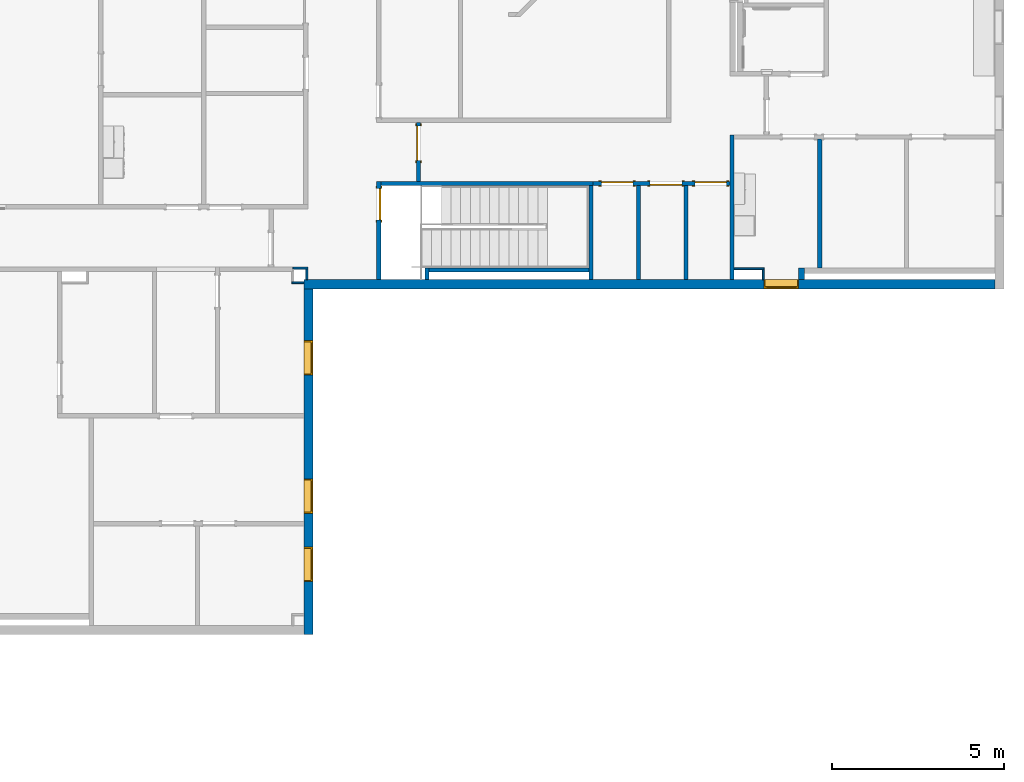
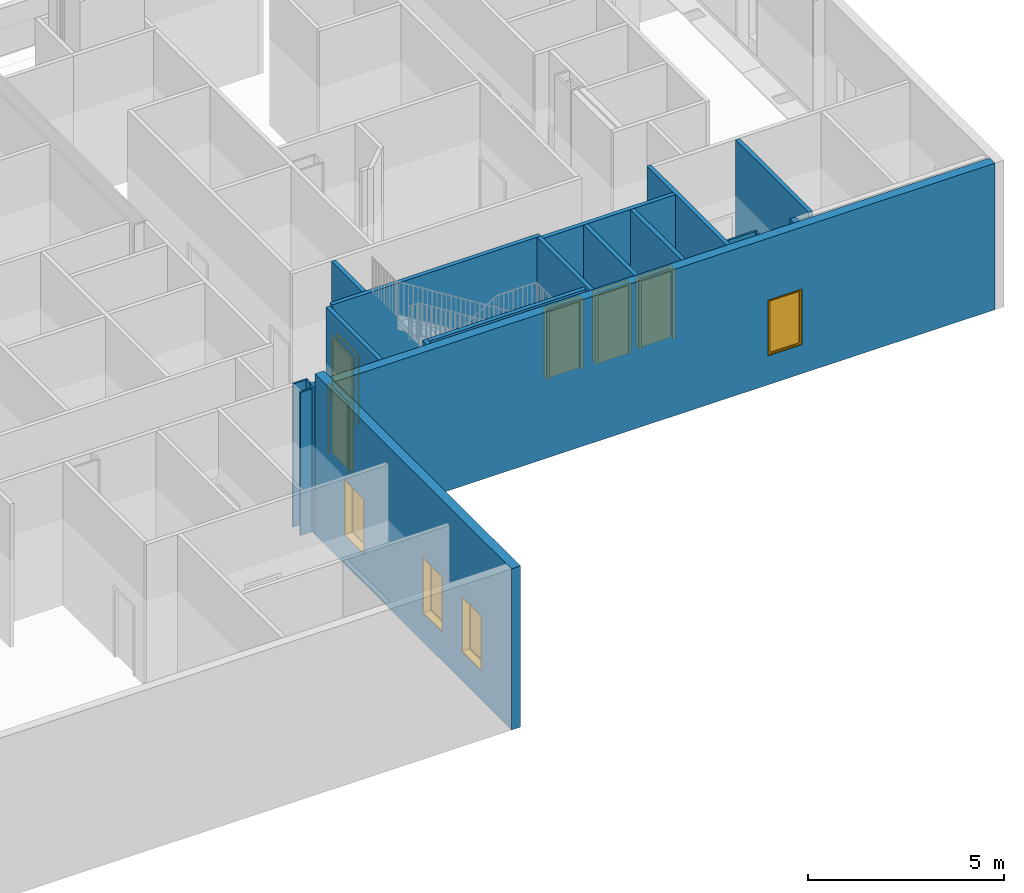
# One storey, part 23 of 87: 19 walls, 5 doors, 4 windows, 9 openings.
"""IFC2X3 building model written with IfcOpenShell, lengths in metres."""

from ifc_helpers import new_model, entity, si_unit, converted_unit, frame, frame_2d, origin, origin_2d_with_axis, place, context, project, spatial, polyline, rectangle, outline, extrude, source, transform, mapped, material, layer, layer_set, layer_usage, type_object, type_shapes, element, fill, save


model = new_model("IFC2X3")

# Units and contexts
model_context = context("Model", 3, precision=1e-09, world=origin())
plan_context = context("Plan", 3, precision=1e-09, world=origin())
ifc_project = project(units=[si_unit("LENGTHUNIT", "METRE"), si_unit("AREAUNIT", "SQUARE_METRE"), si_unit("VOLUMEUNIT", "CUBIC_METRE"), converted_unit("PLANEANGLEUNIT", "DEGREE", entity("IfcRatioMeasure", 0.01745329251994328), si_unit("PLANEANGLEUNIT", "RADIAN"), dimensions=[0, 0, 0, 0, 0, 0, 0]), si_unit("TIMEUNIT", "SECOND")], contexts=[model_context, plan_context])

# Site, building, storey
site_placement = place(None, origin())
site = spatial("IfcSite", under=ifc_project, at=site_placement, Name="Default", CompositionType="ELEMENT")
building_placement = place(site_placement, origin())
building = spatial("IfcBuilding", under=site, at=building_placement, CompositionType="ELEMENT")
storey_placement = place(building_placement, origin())
storey = spatial("IfcBuildingStorey", under=building, at=storey_placement, Name="First Floor", CompositionType="ELEMENT", Elevation=-3.531500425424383e-13)

# Wall, opening, window
ifc_material_1 = material(Name="Insulation - Insulated Panel")
ifc_layer_1 = layer(ifc_material_1, 0.042)
ifc_material_2 = material(Name="Metal - Firring")
ifc_layer_2 = layer(ifc_material_2, 0.038)
ifc_material_3 = material(Name="Wood - Sheathing - plywood")
ifc_layer_3 = layer(ifc_material_3, 0.019)
ifc_material_4 = material(Name="Metal - Stud Layer")
ifc_layer_4 = layer(ifc_material_4, 0.152)
ifc_material_5 = material(Name="Plasterboard")
ifc_layer_5 = layer(ifc_material_5, 0.016)
ifc_layer_set_1 = layer_set([ifc_layer_1, ifc_layer_2, ifc_layer_3, ifc_layer_4, ifc_layer_5], Name="Basic Wall:Exterior - Insul Panel on Mtl. Stud")
ifc_layer_usage_1 = layer_usage(ifc_layer_set_1, "AXIS2", "NEGATIVE", 0.1335)
wall_1_placement = place(storey_placement, frame((0.112999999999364, 9.793499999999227, 0.0), z_axis=(0.0, 0.0, 1.0), x_axis=(-1.0, 0.0, 0.0)))
wall_1 = element("IfcWallStandardCase", 1, at=wall_1_placement, inside=storey, material=ifc_layer_usage_1, Name="Basic Wall:Exterior - Insul Panel on Mtl. Stud", ObjectType="Basic Wall:Exterior - Insul Panel on Mtl. Stud", context=model_context, shape_type="SweptSolid", body=[
    extrude(rectangle(XDim=20.06000000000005, YDim=0.267, at=frame_2d((10.03000000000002, 0.0), x_axis=(-1.0, 0.0))), origin(), (0.0, 0.0, 1.0), 4.57000000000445),
])
opening_1_placement = place(wall_1_placement, frame((5.696303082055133, -0.1335000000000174, 0.9049999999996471)))
opening_1 = element("IfcOpeningElement", 2, at=opening_1_placement, cuts=wall_1, Name="M_Fixed:1735 x 1000mm:1735 x 1000mm:1", ObjectType="Opening", context=model_context, shape_type="SweptSolid", body=[
    extrude(rectangle(XDim=1.734999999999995, YDim=0.9999999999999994, at=frame_2d((0.8674999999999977, 0.5000000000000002), x_axis=(1.0, 0.0))), frame((0.0, 0.0, 0.0), z_axis=(0.0, 1.0, 0.0), x_axis=(0.0, 0.0, 1.0)), (0.0, 0.0, 1.0), 0.267),
])
window_style = type_object("IfcWindowStyle", Name="1735 x 1000mm", ConstructionType="NOTDEFINED", OperationType="NOTDEFINED", ParameterTakesPrecedence=False, Sizeable=False)
shared_shape_1 = source(origin(), model_context, "Body", "SweptSolid", [
    extrude(rectangle(XDim=0.012, YDim=0.873999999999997, at=origin_2d_with_axis()), frame((0.5000000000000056, 0.2259999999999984, 0.06299999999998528), z_axis=(0.0, 0.0, 1.0), x_axis=(0.0, -1.0, 0.0)), (0.0, 0.0, 1.0), 1.609000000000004),
    extrude(outline(polyline([(-0.4809999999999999, -0.8485000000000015), (0.4809999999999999, -0.8485000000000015), (0.4809999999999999, 0.8485000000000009), (-0.4809999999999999, 0.8485000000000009), (-0.4809999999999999, -0.8485000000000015)]), holes=[polyline([(-0.4369999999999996, -0.8045000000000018), (-0.4369999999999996, 0.8045000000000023), (0.4369999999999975, 0.8045000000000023), (0.4369999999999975, -0.8045000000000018), (-0.4369999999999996, -0.8045000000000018)])]), frame((0.5000000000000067, 0.203999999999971, 0.8674999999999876), z_axis=(0.0, 1.0, 0.0), x_axis=(1.0, 0.0, 0.0)), (0.0, 0.0, 1.0), 0.04400000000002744),
    extrude(outline(polyline([(-0.4999999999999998, -0.8674999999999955), (0.4999999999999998, -0.8674999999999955), (0.4999999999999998, 0.8674999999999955), (-0.4999999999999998, 0.8674999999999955), (-0.4999999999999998, -0.8674999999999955)]), holes=[polyline([(-0.4810000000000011, -0.8484999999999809), (-0.4810000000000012, 0.8485000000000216), (0.4809999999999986, 0.8485000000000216), (0.4809999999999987, -0.8484999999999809), (-0.4810000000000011, -0.8484999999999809)])]), frame((0.500000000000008, 0.203999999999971, 0.8675000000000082), z_axis=(0.0, 1.0, 0.0), x_axis=(1.0, 0.0, 0.0)), (0.0, 0.0, 1.0), 0.06300000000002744),
    extrude(outline(polyline([(-0.5000000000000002, -0.867499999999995), (0.5000000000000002, -0.867499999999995), (0.5000000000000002, 0.867499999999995), (-0.5000000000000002, 0.867499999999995), (-0.5000000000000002, -0.867499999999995)]), holes=[polyline([(-0.4679999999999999, -0.8354999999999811), (-0.4679999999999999, 0.8355000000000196), (0.4680000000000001, 0.8355000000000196), (0.4680000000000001, -0.8354999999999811), (-0.4679999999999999, -0.8354999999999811)])]), frame((0.5000000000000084, 0.0, 0.8675000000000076), z_axis=(0.0, 1.0, 0.0), x_axis=(1.0, 0.0, 0.0)), (0.0, 0.0, 1.0), 0.2039999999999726),
])
type_shapes(window_style, [shared_shape_1])
window_1_placement = place(opening_1_placement, origin())
window_1 = element("IfcWindow", 3, at=window_1_placement, inside=storey, type_object=window_style, Name="M_Fixed:1735 x 1000mm:1735 x 1000mm", ObjectType="1735 x 1000mm", OverallHeight=1.734999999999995, OverallWidth=1.0, context=model_context, shape_type="MappedRepresentation", body=[
    mapped(shared_shape_1, transform((0.0, 0.0, 0.0), scale=1.0)),
])
fill(opening_1, window_1)

# Wall, openings, windows
ifc_layer_usage_2 = layer_usage(ifc_layer_set_1, "AXIS2", "NEGATIVE", 0.1335)
wall_2_placement = place(storey_placement, frame((-19.81350000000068, 9.659999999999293, 0.0), z_axis=(0.0, 0.0, 1.0), x_axis=(0.0, -1.0, 0.0)))
wall_2 = element("IfcWallStandardCase", 4, at=wall_2_placement, inside=storey, material=ifc_layer_usage_2, Name="Basic Wall:Exterior - Insul Panel on Mtl. Stud", ObjectType="Basic Wall:Exterior - Insul Panel on Mtl. Stud", context=model_context, shape_type="SweptSolid", body=[
    extrude(rectangle(XDim=10.04000000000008, YDim=0.2669999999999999, at=frame_2d((5.02000000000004, 0.0), x_axis=(-1.0, 0.0))), origin(), (0.0, 0.0, 1.0), 5.02700000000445),
])
opening_2_placement = place(wall_2_placement, frame((1.506000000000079, -0.1335000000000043, 0.9049999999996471)))
opening_2 = element("IfcOpeningElement", 5, at=opening_2_placement, cuts=wall_2, Name="M_Fixed:1735 x 1000mm:1735 x 1000mm:1", ObjectType="Opening", context=model_context, shape_type="SweptSolid", body=[
    extrude(rectangle(XDim=1.734999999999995, YDim=0.9999999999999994, at=frame_2d((0.8674999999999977, 0.5000000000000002), x_axis=(1.0, 0.0))), frame((0.0, 0.0, 0.0), z_axis=(0.0, 1.0, 0.0), x_axis=(0.0, 0.0, 1.0)), (0.0, 0.0, 1.0), 0.267),
])
opening_3_placement = place(wall_2_placement, frame((5.516000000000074, -0.1335000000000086, 0.9049999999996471)))
opening_3 = element("IfcOpeningElement", 6, at=opening_3_placement, cuts=wall_2, Name="M_Fixed:1735 x 1000mm:1735 x 1000mm:1", ObjectType="Opening", context=model_context, shape_type="SweptSolid", body=[
    extrude(rectangle(XDim=1.734999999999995, YDim=0.9999999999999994, at=frame_2d((0.8674999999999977, 0.5000000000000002), x_axis=(1.0, 0.0))), frame((0.0, 0.0, 0.0), z_axis=(0.0, 1.0, 0.0), x_axis=(0.0, 0.0, 1.0)), (0.0, 0.0, 1.0), 0.267),
])
opening_4_placement = place(wall_2_placement, frame((7.500000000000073, -0.133500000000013, 0.9049999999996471)))
opening_4 = element("IfcOpeningElement", 7, at=opening_4_placement, cuts=wall_2, Name="M_Fixed:1735 x 1000mm:1735 x 1000mm:1", ObjectType="Opening", context=model_context, shape_type="SweptSolid", body=[
    extrude(rectangle(XDim=1.734999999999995, YDim=0.9999999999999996, at=frame_2d((0.8674999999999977, 0.4999999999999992), x_axis=(1.0, 0.0))), frame((0.0, 0.0, 0.0), z_axis=(0.0, 1.0, 0.0), x_axis=(0.0, 0.0, 1.0)), (0.0, 0.0, 1.0), 0.267),
])
window_2_placement = place(opening_2_placement, origin())
window_2 = element("IfcWindow", 8, at=window_2_placement, inside=storey, type_object=window_style, Name="M_Fixed:1735 x 1000mm:1735 x 1000mm", ObjectType="1735 x 1000mm", OverallHeight=1.734999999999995, OverallWidth=1.0, context=model_context, shape_type="MappedRepresentation", body=[
    mapped(shared_shape_1, transform((0.0, 0.0, 0.0), scale=1.0)),
])
fill(opening_2, window_2)
window_3_placement = place(opening_3_placement, origin())
window_3 = element("IfcWindow", 9, at=window_3_placement, inside=storey, type_object=window_style, Name="M_Fixed:1735 x 1000mm:1735 x 1000mm", ObjectType="1735 x 1000mm", OverallHeight=1.734999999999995, OverallWidth=0.9999999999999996, context=model_context, shape_type="MappedRepresentation", body=[
    mapped(shared_shape_1, transform((0.0, 0.0, 0.0), scale=1.0)),
])
fill(opening_3, window_3)
window_4_placement = place(opening_4_placement, origin())
window_4 = element("IfcWindow", 10, at=window_4_placement, inside=storey, type_object=window_style, Name="M_Fixed:1735 x 1000mm:1735 x 1000mm", ObjectType="1735 x 1000mm", OverallHeight=1.734999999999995, OverallWidth=0.9999999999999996, context=model_context, shape_type="MappedRepresentation", body=[
    mapped(shared_shape_1, transform((0.0, 0.0, 0.0), scale=1.0)),
])
fill(opening_4, window_4)

# Walls
ifc_layer_6 = layer(ifc_material_5, 0.016)
ifc_layer_7 = layer(ifc_material_4, 0.092)
ifc_layer_8 = layer(ifc_material_5, 0.016)
ifc_layer_set_2 = layer_set([ifc_layer_6, ifc_layer_7, ifc_layer_8], Name="Basic Wall:Interior - Partition (92mm Stud)")
ifc_layer_usage_3 = layer_usage(ifc_layer_set_2, "AXIS2", "NEGATIVE", 0.062)
wall_3_placement = place(storey_placement, frame((-7.517975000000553, 9.92699999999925, 0.0), z_axis=(0.0, 0.0, 1.0), x_axis=(0.0, 1.0, 0.0)))
element("IfcWallStandardCase", 11, at=wall_3_placement, inside=storey, material=ifc_layer_usage_3, Name="Basic Wall:Interior - Partition (92mm Stud)", ObjectType="Basic Wall:Interior - Partition (92mm Stud)", context=model_context, shape_type="SweptSolid", body=[
    extrude(rectangle(XDim=4.202999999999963, YDim=0.124, at=frame_2d((2.101499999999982, 0.0), x_axis=(-1.0, 0.0))), origin(), (0.0, 0.0, 1.0), 4.468000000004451),
])
ifc_layer_9 = layer(ifc_material_4, 0.152)
ifc_layer_10 = layer(ifc_material_5, 0.016)
ifc_layer_set_3 = layer_set([ifc_layer_9, ifc_layer_10], Name="Basic Wall:Interior - Furring (152 mm Stud)")
ifc_layer_usage_4 = layer_usage(ifc_layer_set_3, "AXIS2", "POSITIVE", -0.08399999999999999)
wall_4_placement = place(storey_placement, frame((-5.49930308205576, 9.926999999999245, 0.0), z_axis=(0.0, 0.0, 1.0), x_axis=(0.0, 1.0, 0.0)))
element("IfcWallStandardCase", 12, at=wall_4_placement, inside=storey, material=ifc_layer_usage_4, Name="Basic Wall:Interior - Furring (152 mm Stud)", ObjectType="Basic Wall:Interior - Furring (152 mm Stud)", context=model_context, shape_type="SweptSolid", body=[
    extrude(rectangle(XDim=0.3429999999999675, YDim=0.1680000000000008, at=frame_2d((0.1714999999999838, 0.0), x_axis=(-1.0, 0.0))), origin(), (0.0, 0.0, 1.0), 4.46800000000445),
])
ifc_layer_usage_5 = layer_usage(ifc_layer_set_2, "AXIS2", "NEGATIVE", 0.062)
wall_5_placement = place(storey_placement, frame((-4.967975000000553, 10.26999999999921, 0.0), z_axis=(0.0, 0.0, 1.0), x_axis=(0.0, 1.0, 0.0)))
element("IfcWallStandardCase", 13, at=wall_5_placement, inside=storey, material=ifc_layer_usage_5, Name="Basic Wall:Interior - Partition (92mm Stud)", ObjectType="Basic Wall:Interior - Partition (92mm Stud)", context=model_context, shape_type="SweptSolid", body=[
    extrude(rectangle(XDim=3.735999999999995, YDim=0.124, at=frame_2d((1.867999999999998, 0.0), x_axis=(-1.0, 0.0))), origin(), (0.0, 0.0, 1.0), 4.46800000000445),
])
ifc_layer_11 = layer(ifc_material_4, 0.038)
ifc_layer_12 = layer(ifc_material_5, 0.016)
ifc_layer_set_4 = layer_set([ifc_layer_11, ifc_layer_12], Name="Basic Wall:Interior - Furring (38 mm Stud)")
ifc_layer_usage_6 = layer_usage(ifc_layer_set_4, "AXIS2", "POSITIVE", -0.027)
wall_6_placement = place(storey_placement, frame((-7.455975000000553, 10.24299999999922, 0.0)))
element("IfcWallStandardCase", 14, at=wall_6_placement, inside=storey, material=ifc_layer_usage_6, Name="Basic Wall:Interior - Furring (38 mm Stud)", ObjectType="Basic Wall:Interior - Furring (38 mm Stud)", context=model_context, shape_type="SweptSolid", body=[
    extrude(rectangle(XDim=0.872671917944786, YDim=0.05400000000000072, at=frame_2d((0.436335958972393, 0.0), x_axis=(-1.0, 0.0))), origin(), (0.0, 0.0, 1.0), 4.46800000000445),
])
ifc_layer_usage_7 = layer_usage(ifc_layer_set_4, "AXIS2", "POSITIVE", -0.027)
wall_7_placement = place(storey_placement, frame((-6.610303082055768, 10.21599999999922, 0.0), z_axis=(0.0, 0.0, 1.0), x_axis=(0.0, -1.0, 0.0)))
element("IfcWallStandardCase", 15, at=wall_7_placement, inside=storey, material=ifc_layer_usage_7, Name="Basic Wall:Interior - Furring (38 mm Stud)", ObjectType="Basic Wall:Interior - Furring (38 mm Stud)", context=model_context, shape_type="SweptSolid", body=[
    extrude(rectangle(XDim=0.2889999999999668, YDim=0.05400000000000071, at=frame_2d((0.1444999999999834, 0.0), x_axis=(-1.0, 0.0))), origin(), (0.0, 0.0, 1.0), 4.46800000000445),
])

# Wall, opening, door
ifc_material_6 = material(Name="Type-X Plasterboard")
ifc_layer_13 = layer(ifc_material_6, 0.016)
ifc_layer_14 = layer(ifc_material_4, 0.092)
ifc_layer_15 = layer(ifc_material_6, 0.016)
ifc_layer_set_5 = layer_set([ifc_layer_13, ifc_layer_14, ifc_layer_15], Name="Basic Wall:Interior - Rated 1-HR (92mm Stud)")
ifc_layer_usage_8 = layer_usage(ifc_layer_set_5, "AXIS2", "NEGATIVE", 0.06200000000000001)
wall_8_placement = place(storey_placement, frame((-17.76800000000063, 9.926999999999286, 0.0), z_axis=(0.0, 0.0, 1.0), x_axis=(0.0, 1.0, 0.0)))
wall_8 = element("IfcWallStandardCase", 16, at=wall_8_placement, inside=storey, material=ifc_layer_usage_8, Name="Basic Wall:Interior - Rated 1-HR (92mm Stud)", ObjectType="Basic Wall:Interior - Rated 1-HR (92mm Stud)", context=model_context, shape_type="SweptSolid", body=[
    extrude(rectangle(XDim=2.852999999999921, YDim=0.1240000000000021, at=frame_2d((1.426499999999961, 0.0), x_axis=(-1.0, 0.0))), origin(), (0.0, 0.0, 1.0), 4.46800000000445),
])
opening_5_placement = place(wall_8_placement, frame((2.648999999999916, 0.06199999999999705, 0.0)))
opening_5 = element("IfcOpeningElement", 17, at=opening_5_placement, cuts=wall_8, Name="M_Single-Flush:0915 x 2134mm Rated:0915 x 2134mm Rated:1", ObjectType="Opening", context=model_context, shape_type="SweptSolid", body=[
    extrude(rectangle(XDim=0.9149999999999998, YDim=2.134, at=frame_2d((1.067, 0.4574999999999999), x_axis=(0.0, -1.0))), frame((0.0, 0.0, 0.0), z_axis=(0.0, -1.0, 0.0), x_axis=(0.0, 0.0, 1.0)), (0.0, 0.0, 1.0), 0.124),
])
door_style_1 = type_object("IfcDoorStyle", Name="0915 x 2134mm Rated", ConstructionType="NOTDEFINED", OperationType="SINGLE_SWING_LEFT", ParameterTakesPrecedence=False, Sizeable=False)
shared_shape_2 = source(origin(), model_context, "Body", "SweptSolid", [
    extrude(outline(polyline([(-0.5335, -1.123999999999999), (0.5334999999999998, -1.123999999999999), (0.5334999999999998, 1.086), (0.4574999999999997, 1.086), (0.4574999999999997, -1.048000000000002), (-0.4574999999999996, -1.048000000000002), (-0.4574999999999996, 1.086), (-0.5335, 1.086), (-0.5335, -1.123999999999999)])), frame((0.4575000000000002, 0.1489999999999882, 1.086), z_axis=(0.0, -1.0, 0.0), x_axis=(-1.0, 0.0, 0.0)), (0.0, 0.0, 1.0), 0.02499999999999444),
    extrude(outline(polyline([(-1.123999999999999, -0.5334999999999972), (1.085999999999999, -0.5334999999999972), (1.085999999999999, -0.4575000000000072), (-1.048, -0.4575000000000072), (-1.048, 0.4575000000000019), (1.085999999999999, 0.4575000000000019), (1.085999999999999, 0.5335000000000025), (-1.123999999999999, 0.5335000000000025), (-1.123999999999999, -0.5334999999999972)])), frame((0.4574999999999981, 0.0, 1.085999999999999), z_axis=(0.0, -1.0, 0.0), x_axis=(0.0, 0.0, -1.0)), (0.0, 0.0, 1.0), 0.02500000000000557),
    extrude(rectangle(XDim=0.9149999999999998, YDim=0.051, at=origin_2d_with_axis()), frame((0.4575000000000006, 0.09849999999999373, 0.0)), (0.0, 0.0, 1.0), 2.133999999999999),
])
type_shapes(door_style_1, [shared_shape_2])
door_1_placement = place(opening_5_placement, frame((0.0, 0.0, 0.0), z_axis=(0.0, 0.0, 1.0), x_axis=(-1.0, 0.0, 0.0)))
door_1 = element("IfcDoor", 18, at=door_1_placement, inside=storey, type_object=door_style_1, Name="M_Single-Flush:0915 x 2134mm Rated:0915 x 2134mm Rated", ObjectType="0915 x 2134mm Rated", OverallHeight=2.134, OverallWidth=0.9149999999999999, context=model_context, shape_type="MappedRepresentation", body=[
    mapped(shared_shape_2, transform((0.0, 0.0, 0.0), scale=1.0)),
])
fill(opening_5, door_1)

# Walls
ifc_layer_usage_9 = layer_usage(ifc_layer_set_5, "AXIS2", "NEGATIVE", 0.06200000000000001)
wall_9_placement = place(storey_placement, frame((-17.70600000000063, 12.71799999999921, 0.0)))
element("IfcWallStandardCase", 19, at=wall_9_placement, inside=storey, material=ifc_layer_usage_9, Name="Basic Wall:Interior - Rated 1-HR (92mm Stud)", ObjectType="Basic Wall:Interior - Rated 1-HR (92mm Stud)", context=model_context, shape_type="SweptSolid", body=[
    extrude(rectangle(XDim=6.156000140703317, YDim=0.1240000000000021, at=frame_2d((3.078000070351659, 0.0), x_axis=(-1.0, 0.0))), origin(), (0.0, 0.0, 1.0), 4.570000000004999),
])
ifc_layer_usage_10 = layer_usage(ifc_layer_set_2, "AXIS2", "NEGATIVE", 0.062)
wall_10_placement = place(storey_placement, frame((-8.852000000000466, 12.65599999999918, 0.0), z_axis=(0.0, 0.0, 1.0), x_axis=(0.0, -1.0, 0.0)))
element("IfcWallStandardCase", 20, at=wall_10_placement, inside=storey, material=ifc_layer_usage_10, Name="Basic Wall:Interior - Partition (92mm Stud)", ObjectType="Basic Wall:Interior - Partition (92mm Stud)", context=model_context, shape_type="SweptSolid", body=[
    extrude(rectangle(XDim=2.728999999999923, YDim=0.124, at=frame_2d((1.364499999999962, 0.0), x_axis=(-1.0, 0.0))), origin(), (0.0, 0.0, 1.0), 4.46800000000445),
])
ifc_layer_usage_11 = layer_usage(ifc_layer_set_2, "AXIS2", "NEGATIVE", 0.062)
wall_11_placement = place(storey_placement, frame((-10.23200000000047, 12.65599999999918, 0.0), z_axis=(0.0, 0.0, 1.0), x_axis=(0.0, -1.0, 0.0)))
element("IfcWallStandardCase", 21, at=wall_11_placement, inside=storey, material=ifc_layer_usage_11, Name="Basic Wall:Interior - Partition (92mm Stud)", ObjectType="Basic Wall:Interior - Partition (92mm Stud)", context=model_context, shape_type="SweptSolid", body=[
    extrude(rectangle(XDim=2.728999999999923, YDim=0.1240000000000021, at=frame_2d((1.364499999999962, 0.0), x_axis=(-1.0, 0.0))), origin(), (0.0, 0.0, 1.0), 4.46800000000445),
])
ifc_layer_usage_12 = layer_usage(ifc_layer_set_5, "AXIS2", "NEGATIVE", 0.06200000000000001)
wall_12_placement = place(storey_placement, frame((-11.61199985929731, 12.65599999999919, 0.0), z_axis=(0.0, 0.0, 1.0), x_axis=(0.0, -1.0, 0.0)))
element("IfcWallStandardCase", 22, at=wall_12_placement, inside=storey, material=ifc_layer_usage_12, Name="Basic Wall:Interior - Rated 1-HR (92mm Stud)", ObjectType="Basic Wall:Interior - Rated 1-HR (92mm Stud)", context=model_context, shape_type="SweptSolid", body=[
    extrude(rectangle(XDim=2.728999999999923, YDim=0.1240000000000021, at=frame_2d((1.364499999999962, 0.0), x_axis=(-1.0, 0.0))), origin(), (0.0, 0.0, 1.0), 4.570000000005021),
])
ifc_layer_usage_13 = layer_usage(ifc_layer_set_2, "AXIS2", "NEGATIVE", 0.062)
wall_13_placement = place(storey_placement, frame((-16.36800000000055, 9.92699999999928, 0.0), z_axis=(0.0, 0.0, 1.0), x_axis=(0.0, 1.0, 0.0)))
element("IfcWallStandardCase", 23, at=wall_13_placement, inside=storey, material=ifc_layer_usage_13, Name="Basic Wall:Interior - Partition (92mm Stud)", ObjectType="Basic Wall:Interior - Partition (92mm Stud)", context=model_context, shape_type="SweptSolid", body=[
    extrude(rectangle(XDim=0.3429998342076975, YDim=0.1240000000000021, at=frame_2d((0.1714999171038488, 0.0), x_axis=(-1.0, 0.0))), origin(), (0.0, 0.0, 1.0), 4.46800000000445),
])
ifc_layer_usage_14 = layer_usage(ifc_layer_set_2, "AXIS2", "NEGATIVE", 0.062)
wall_14_placement = place(storey_placement, frame((-16.30600000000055, 10.20799983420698, 0.0)))
element("IfcWallStandardCase", 24, at=wall_14_placement, inside=storey, material=ifc_layer_usage_14, Name="Basic Wall:Interior - Partition (92mm Stud)", ObjectType="Basic Wall:Interior - Partition (92mm Stud)", context=model_context, shape_type="SweptSolid", body=[
    extrude(rectangle(XDim=4.632000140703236, YDim=0.1240000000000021, at=frame_2d((2.316000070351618, 0.0), x_axis=(-1.0, 0.0))), origin(), (0.0, 0.0, 1.0), 4.46800000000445),
])

# Wall, opening, door
ifc_layer_usage_15 = layer_usage(ifc_layer_set_2, "AXIS2", "NEGATIVE", 0.062)
wall_15_placement = place(storey_placement, frame((-16.61800000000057, 12.7799999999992, 0.0), z_axis=(0.0, 0.0, 1.0), x_axis=(0.0, 1.0, 0.0)))
wall_15 = element("IfcWallStandardCase", 25, at=wall_15_placement, inside=storey, material=ifc_layer_usage_15, Name="Basic Wall:Interior - Partition (92mm Stud)", ObjectType="Basic Wall:Interior - Partition (92mm Stud)", context=model_context, shape_type="SweptSolid", body=[
    extrude(rectangle(XDim=1.709999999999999, YDim=0.1240000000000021, at=frame_2d((0.8549999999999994, 0.0), x_axis=(-1.0, 0.0))), origin(), (0.0, 0.0, 1.0), 4.46800000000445),
])
opening_6_placement = place(wall_15_placement, frame((0.6099999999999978, -0.06200000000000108, 0.0)))
opening_6 = element("IfcOpeningElement", 26, at=opening_6_placement, cuts=wall_15, Name="M_Single-Flush:1000 x 2134mm:1000 x 2134mm:1", ObjectType="Opening", context=model_context, shape_type="SweptSolid", body=[
    extrude(rectangle(XDim=0.9999999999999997, YDim=2.134, at=frame_2d((1.067, 0.5000000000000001), x_axis=(0.0, 1.0))), frame((0.0, 0.0, 0.0), z_axis=(0.0, 1.0, 0.0), x_axis=(0.0, 0.0, 1.0)), (0.0, 0.0, 1.0), 0.124),
])
door_style_2 = type_object("IfcDoorStyle", Name="1000 x 2134mm", ConstructionType="NOTDEFINED", OperationType="SINGLE_SWING_RIGHT", ParameterTakesPrecedence=False, Sizeable=False)
shared_shape_3 = source(origin(), model_context, "Body", "SweptSolid", [
    extrude(outline(polyline([(-0.576, -1.123999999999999), (0.5759999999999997, -1.123999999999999), (0.5759999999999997, 1.086), (0.4999999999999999, 1.086), (0.4999999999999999, -1.048000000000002), (-0.4999999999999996, -1.048000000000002), (-0.4999999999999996, 1.086), (-0.576, 1.086), (-0.576, -1.123999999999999)])), frame((0.5000000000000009, 0.1239999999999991, 1.086), z_axis=(0.0, 1.0, 0.0), x_axis=(1.0, 0.0, 0.0)), (0.0, 0.0, 1.0), 0.02499999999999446),
    extrude(outline(polyline([(-1.124, -0.575999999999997), (1.086, -0.575999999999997), (1.086, -0.5000000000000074), (-1.048, -0.5000000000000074), (-1.048, 0.5000000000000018), (1.086, 0.5000000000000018), (1.086, 0.5760000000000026), (-1.124, 0.5760000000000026), (-1.124, -0.575999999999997)])), frame((0.5000000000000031, -0.02500000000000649, 1.086), z_axis=(0.0, 1.0, 0.0), x_axis=(0.0, 0.0, -1.0)), (0.0, 0.0, 1.0), 0.02500000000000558),
    extrude(rectangle(XDim=0.051, YDim=0.9999999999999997, at=origin_2d_with_axis()), frame((0.5000000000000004, 0.09849999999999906, 0.0), z_axis=(0.0, 0.0, 1.0), x_axis=(0.0, 1.0, 0.0)), (0.0, 0.0, 1.0), 2.133999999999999),
])
type_shapes(door_style_2, [shared_shape_3])
door_2_placement = place(opening_6_placement, origin())
door_2 = element("IfcDoor", 27, at=door_2_placement, inside=storey, type_object=door_style_2, Name="M_Single-Flush:1000 x 2134mm:1000 x 2134mm", ObjectType="1000 x 2134mm", OverallHeight=2.134, OverallWidth=1.0, context=model_context, shape_type="MappedRepresentation", body=[
    mapped(shared_shape_3, transform((0.0, 0.0, 0.0), scale=1.0)),
])
fill(opening_6, door_2)

# Walls
ifc_layer_usage_16 = layer_usage(ifc_layer_set_4, "AXIS2", "POSITIVE", -0.027)
wall_16_placement = place(storey_placement, frame((-19.85700000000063, 10.2329999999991, 0.0), z_axis=(0.0, 0.0, 1.0), x_axis=(0.0, -1.0, 0.0)))
element("IfcWallStandardCase", 28, at=wall_16_placement, inside=storey, material=ifc_layer_usage_16, Name="Basic Wall:Interior - Furring (38 mm Stud)", ObjectType="Basic Wall:Interior - Furring (38 mm Stud)", context=model_context, shape_type="SweptSolid", body=[
    extrude(rectangle(XDim=0.3059999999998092, YDim=0.05399999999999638, at=frame_2d((0.1529999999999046, 0.0), x_axis=(-1.0, 0.0))), origin(), (0.0, 0.0, 1.0), 4.46800000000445),
])
ifc_layer_usage_17 = layer_usage(ifc_layer_set_4, "AXIS2", "POSITIVE", -0.027)
wall_17_placement = place(storey_placement, frame((-19.94700000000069, 9.836999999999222, 0.0), z_axis=(0.0, 0.0, 1.0), x_axis=(-1.0, 0.0, 0.0)))
element("IfcWallStandardCase", 29, at=wall_17_placement, inside=storey, material=ifc_layer_usage_17, Name="Basic Wall:Interior - Furring (38 mm Stud)", ObjectType="Basic Wall:Interior - Furring (38 mm Stud)", context=model_context, shape_type="SweptSolid", body=[
    extrude(rectangle(XDim=0.342999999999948, YDim=0.05400000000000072, at=frame_2d((0.171499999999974, 0.0), x_axis=(-1.0, 0.0))), origin(), (0.0, 0.0, 1.0), 4.46800000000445),
])
ifc_layer_usage_18 = layer_usage(ifc_layer_set_4, "AXIS2", "POSITIVE", -0.027)
wall_18_placement = place(storey_placement, frame((-20.26300000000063, 10.2599999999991, 0.0)))
element("IfcWallStandardCase", 30, at=wall_18_placement, inside=storey, material=ifc_layer_usage_18, Name="Basic Wall:Interior - Furring (38 mm Stud)", ObjectType="Basic Wall:Interior - Furring (38 mm Stud)", context=model_context, shape_type="SweptSolid", body=[
    extrude(rectangle(XDim=0.4330000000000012, YDim=0.05400000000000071, at=frame_2d((0.2165000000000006, 0.0), x_axis=(-1.0, 0.0))), origin(), (0.0, 0.0, 1.0), 4.468000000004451),
])

# Wall, openings, doors
ifc_layer_usage_19 = layer_usage(ifc_layer_set_2, "AXIS2", "NEGATIVE", 0.062)
wall_19_placement = place(storey_placement, frame((-11.54999985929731, 12.71799999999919, 0.0)))
wall_19 = element("IfcWallStandardCase", 31, at=wall_19_placement, inside=storey, material=ifc_layer_usage_19, Name="Basic Wall:Interior - Partition (92mm Stud)", ObjectType="Basic Wall:Interior - Partition (92mm Stud)", context=model_context, shape_type="SweptSolid", body=[
    extrude(rectangle(XDim=3.970024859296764, YDim=0.1240000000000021, at=frame_2d((1.985012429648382, 0.0), x_axis=(-1.0, 0.0))), origin(), (0.0, 0.0, 1.0), 4.468000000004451),
])
opening_7_placement = place(wall_19_placement, frame((2.95502485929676, -0.0620000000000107, 0.0)))
opening_7 = element("IfcOpeningElement", 32, at=opening_7_placement, cuts=wall_19, Name=":1", ObjectType="Opening", context=model_context, shape_type="SweptSolid", body=[
    extrude(rectangle(XDim=0.9149999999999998, YDim=2.134, at=frame_2d((1.067, 0.4575), x_axis=(0.0, 1.0))), frame((0.0, 0.0, 0.0), z_axis=(0.0, 1.0, 0.0), x_axis=(0.0, 0.0, 1.0)), (0.0, 0.0, 1.0), 0.124),
])
opening_8_placement = place(wall_19_placement, frame((2.575999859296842, 0.06199999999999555, 0.0)))
opening_8 = element("IfcOpeningElement", 33, at=opening_8_placement, cuts=wall_19, Name=":1", ObjectType="Opening", context=model_context, shape_type="SweptSolid", body=[
    extrude(rectangle(XDim=0.9149999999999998, YDim=2.134, at=frame_2d((1.067, 0.4575000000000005), x_axis=(0.0, -1.0))), frame((0.0, 0.0, 0.0), z_axis=(0.0, -1.0, 0.0), x_axis=(0.0, 0.0, 1.0)), (0.0, 0.0, 1.0), 0.124),
])
opening_9_placement = place(wall_19_placement, frame((0.2409998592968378, -0.06200000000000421, 0.0)))
opening_9 = element("IfcOpeningElement", 34, at=opening_9_placement, cuts=wall_19, Name=":1", ObjectType="Opening", context=model_context, shape_type="SweptSolid", body=[
    extrude(rectangle(XDim=0.9149999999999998, YDim=2.134, at=frame_2d((1.067, 0.4575000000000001), x_axis=(0.0, -1.0))), frame((0.0, 0.0, 0.0), z_axis=(0.0, 1.0, 0.0), x_axis=(0.0, 0.0, 1.0)), (0.0, 0.0, 1.0), 0.124),
])
door_style_3 = type_object("IfcDoorStyle", Name="0915 x 2134mm", ConstructionType="NOTDEFINED", OperationType="SINGLE_SWING_RIGHT", ParameterTakesPrecedence=False, Sizeable=False)
shared_shape_4 = source(origin(), model_context, "Body", "SweptSolid", [
    extrude(outline(polyline([(-0.5335, -1.123999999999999), (0.5334999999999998, -1.123999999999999), (0.5334999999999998, 1.086), (0.4574999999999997, 1.086), (0.4574999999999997, -1.048000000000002), (-0.4574999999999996, -1.048000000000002), (-0.4574999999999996, 1.086), (-0.5335, 1.086), (-0.5335, -1.123999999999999)])), frame((0.4575000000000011, 0.1239999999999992, 1.086), z_axis=(0.0, 1.0, 0.0), x_axis=(1.0, 0.0, 0.0)), (0.0, 0.0, 1.0), 0.02499999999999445),
    extrude(outline(polyline([(-1.123999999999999, -0.5334999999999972), (1.085999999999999, -0.5334999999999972), (1.085999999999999, -0.4575000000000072), (-1.048, -0.4575000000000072), (-1.048, 0.4575000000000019), (1.085999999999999, 0.4575000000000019), (1.085999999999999, 0.5335000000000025), (-1.123999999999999, 0.5335000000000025), (-1.123999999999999, -0.5334999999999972)])), frame((0.4575000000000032, -0.02500000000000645, 1.085999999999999), z_axis=(0.0, 1.0, 0.0), x_axis=(0.0, 0.0, -1.0)), (0.0, 0.0, 1.0), 0.02500000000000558),
    extrude(rectangle(XDim=0.051, YDim=0.9149999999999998, at=origin_2d_with_axis()), frame((0.4575000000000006, 0.09849999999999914, 0.0), z_axis=(0.0, 0.0, 1.0), x_axis=(0.0, 1.0, 0.0)), (0.0, 0.0, 1.0), 2.133999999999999),
])
type_shapes(door_style_3, [shared_shape_4])
door_3_placement = place(opening_7_placement, origin())
door_3 = element("IfcDoor", 35, at=door_3_placement, inside=storey, type_object=door_style_3, Name="M_Single-Flush:0915 x 2134mm:0915 x 2134mm", ObjectType="0915 x 2134mm", OverallHeight=2.134, OverallWidth=0.9149999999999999, context=model_context, shape_type="MappedRepresentation", body=[
    mapped(shared_shape_4, transform((0.0, 0.0, 0.0), scale=1.0)),
])
fill(opening_7, door_3)
door_style_4 = type_object("IfcDoorStyle", Name="0915 x 2134mm", ConstructionType="NOTDEFINED", OperationType="SINGLE_SWING_LEFT", ParameterTakesPrecedence=False, Sizeable=False)
shared_shape_5 = source(origin(), model_context, "Body", "SweptSolid", [
    extrude(outline(polyline([(-0.5335, -1.123999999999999), (0.5334999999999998, -1.123999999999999), (0.5334999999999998, 1.086), (0.4574999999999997, 1.086), (0.4574999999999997, -1.048000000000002), (-0.4574999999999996, -1.048000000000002), (-0.4574999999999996, 1.086), (-0.5335, 1.086), (-0.5335, -1.123999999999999)])), frame((0.4575000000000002, 0.1489999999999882, 1.086), z_axis=(0.0, -1.0, 0.0), x_axis=(-1.0, 0.0, 0.0)), (0.0, 0.0, 1.0), 0.02499999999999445),
    extrude(outline(polyline([(-1.123999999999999, -0.5334999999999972), (1.085999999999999, -0.5334999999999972), (1.085999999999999, -0.4575000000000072), (-1.048, -0.4575000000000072), (-1.048, 0.4575000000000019), (1.085999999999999, 0.4575000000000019), (1.085999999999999, 0.5335000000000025), (-1.123999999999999, 0.5335000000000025), (-1.123999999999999, -0.5334999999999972)])), frame((0.4574999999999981, 0.0, 1.085999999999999), z_axis=(0.0, -1.0, 0.0), x_axis=(0.0, 0.0, -1.0)), (0.0, 0.0, 1.0), 0.02500000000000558),
    extrude(rectangle(XDim=0.9149999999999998, YDim=0.051, at=origin_2d_with_axis()), frame((0.4575000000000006, 0.09849999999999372, 0.0)), (0.0, 0.0, 1.0), 2.133999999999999),
])
type_shapes(door_style_4, [shared_shape_5])
door_4_placement = place(opening_8_placement, frame((0.0, 0.0, 0.0), z_axis=(0.0, 0.0, 1.0), x_axis=(-1.0, 0.0, 0.0)))
door_4 = element("IfcDoor", 36, at=door_4_placement, inside=storey, type_object=door_style_4, Name="M_Single-Flush:0915 x 2134mm:0915 x 2134mm", ObjectType="0915 x 2134mm", OverallHeight=2.134, OverallWidth=0.9149999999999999, context=model_context, shape_type="MappedRepresentation", body=[
    mapped(shared_shape_5, transform((0.0, 0.0, 0.0), scale=1.0)),
])
fill(opening_8, door_4)
door_5_placement = place(opening_9_placement, origin())
door_5 = element("IfcDoor", 37, at=door_5_placement, inside=storey, type_object=door_style_4, Name="M_Single-Flush:0915 x 2134mm:0915 x 2134mm", ObjectType="0915 x 2134mm", OverallHeight=2.134, OverallWidth=0.9149999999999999, context=model_context, shape_type="MappedRepresentation", body=[
    mapped(shared_shape_5, transform((0.0, 0.0, 0.0), scale=1.0)),
])
fill(opening_9, door_5)

save(model, "model.ifc")
